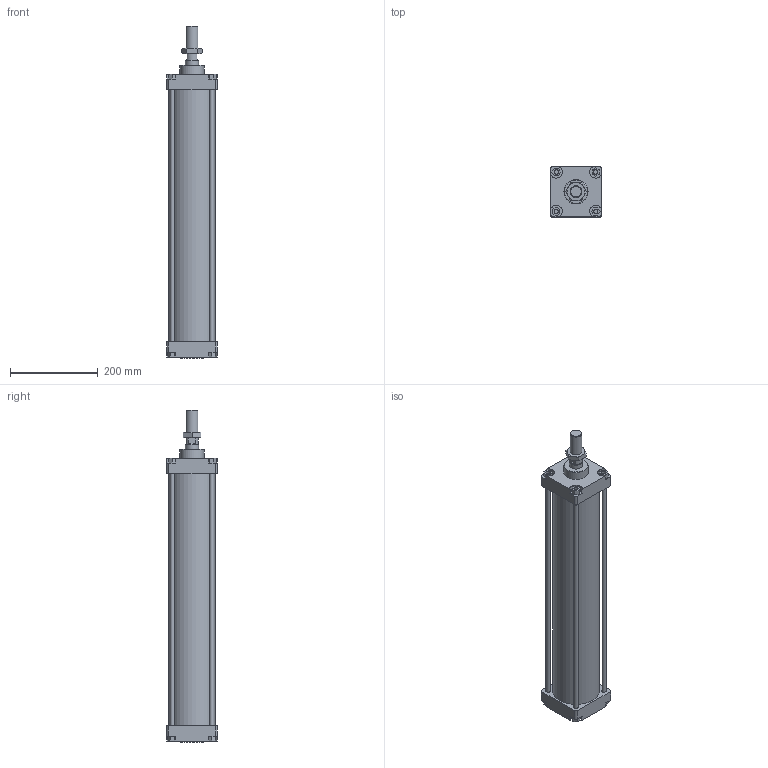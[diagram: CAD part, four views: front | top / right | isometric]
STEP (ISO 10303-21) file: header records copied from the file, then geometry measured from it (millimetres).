
FILE_DESCRIPTION(/* description */ (''),/* implementation_level */ '2;1');
FILE_NAME(/* name */ 'I:\Area Tecnica\Disegni\VARIE-3D\Componenti\CSP\Ø100\130#_100_####_###\1303_100_0500_01A.stp',/* time_stamp */ '2016-11-24T14:05:22+01:00',/* author */ ('Maniean1'),/* organization */ ('Pneumax S.p.A.'),/* preprocessor_version */ 'ST-DEVELOPER v15.2',/* originating_system */ 'Autodesk Inventor 2014',/* authorisation */ '');
FILE_SCHEMA (('AUTOMOTIVE_DESIGN { 1 0 10303 214 3 1 1 }'));
Length unit declared in the file: millimetre
Products named in the file (6): C_130#_100_0500; Testata anteriore_100; Testata posteriore_100; S_1303_100_0500_01A; 1300_100_18F; 1303_100_0500_01A
Bounding box: 115 x 115 x 757 mm (x, y, z)
Volume: 2630746.3 mm3; surface area: 662444.6 mm2
Topology: 9 solids, 9 shells, 162 faces, 380 edges, 249 vertices
Faces by surface type: plane 105, cylinder 42, cone 15
Full cylindrical faces by diameter (mm): 10 x12, 19 x2, 21.8 x1, 24.835 x1, 27 x1, 28 x1, 30 x3, 55 x2, 100 x2, 106 x1
Entity records: 4530 total; most frequent: CARTESIAN_POINT 785, DIRECTION 764, ORIENTED_EDGE 672, EDGE_CURVE 336, AXIS2_PLACEMENT_3D 271, VERTEX_POINT 244, EDGE_LOOP 236, LINE 222
